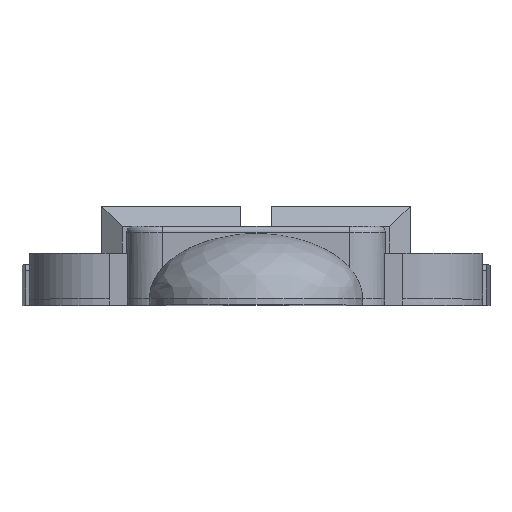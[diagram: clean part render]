
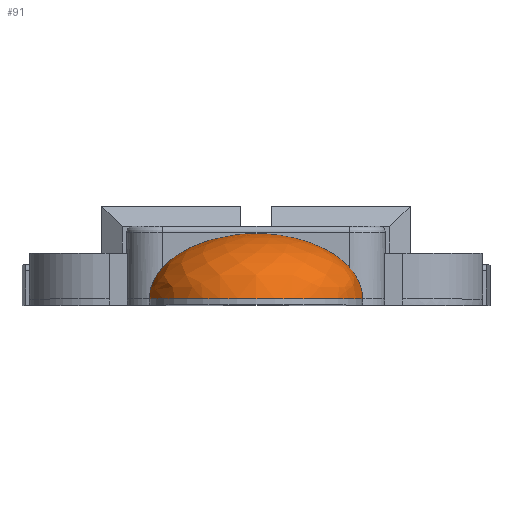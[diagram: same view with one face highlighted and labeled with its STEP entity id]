
A CAD part, top view. The second image highlights one B-rep face of the part: STEP entity #91.
In plain terms, the highlighted free-form (B-spline) face has degree [2, 2] with [9, 5] control points.
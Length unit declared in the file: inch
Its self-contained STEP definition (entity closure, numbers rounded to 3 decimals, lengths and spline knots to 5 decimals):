
#91=ADVANCED_FACE('',(#222),#2100,.T.);
#222=FACE_OUTER_BOUND('',#353,.T.);
#353=EDGE_LOOP('',(#819,#820,#821));
#819=ORIENTED_EDGE('',*,*,#1436,.T.);
#820=ORIENTED_EDGE('',*,*,#1427,.T.);
#821=ORIENTED_EDGE('',*,*,#1133,.F.);
#1133=EDGE_CURVE('',#1889,#1890,#1526,.T.);
#1427=EDGE_CURVE('',#2085,#1890,#1519,.T.);
#1436=EDGE_CURVE('',#1889,#2085,#1523,.T.);
#1519=(
BOUNDED_CURVE()
B_SPLINE_CURVE(2,(#4432,#4433,#4434),.UNSPECIFIED.,.F.,.F.)
B_SPLINE_CURVE_WITH_KNOTS((3,3),(-29.28308,0.),.UNSPECIFIED.)
CURVE()
GEOMETRIC_REPRESENTATION_ITEM()
RATIONAL_B_SPLINE_CURVE((1.,0.707,1.))
REPRESENTATION_ITEM('')
);
#1523=(
BOUNDED_CURVE()
B_SPLINE_CURVE(2,(#4453,#4454,#4455),.UNSPECIFIED.,.F.,.F.)
B_SPLINE_CURVE_WITH_KNOTS((3,3),(0.,29.28308),.UNSPECIFIED.)
CURVE()
GEOMETRIC_REPRESENTATION_ITEM()
RATIONAL_B_SPLINE_CURVE((1.,0.707,1.))
REPRESENTATION_ITEM('')
);
#1526=TRIMMED_CURVE($,#1546,(#3495),(#3496),.T.,.CARTESIAN.);
#1546=CIRCLE('',#2414,0.90026);
#1889=VERTEX_POINT('',#3255);
#1890=VERTEX_POINT('',#3256);
#2085=VERTEX_POINT('',#3451);
#2100=(
BOUNDED_SURFACE()
B_SPLINE_SURFACE(2,2,((#3109,#3110,#3111,#3112,#3113),(#3114,#3115,#3116,
#3117,#3118),(#3119,#3120,#3121,#3122,#3123),(#3124,#3125,#3126,#3127,#3128),
(#3129,#3130,#3131,#3132,#3133),(#3134,#3135,#3136,#3137,#3138),(#3139,
#3140,#3141,#3142,#3143),(#3144,#3145,#3146,#3147,#3148),(#3149,#3150,#3151,
#3152,#3153)),.UNSPECIFIED.,.T.,.F.,.F.)
B_SPLINE_SURFACE_WITH_KNOTS((3,2,2,2,3),(3,2,3),(0.,29.28308,58.56616,
87.84924,117.13232),(-29.28308,0.,29.28308),
 .UNSPECIFIED.)
GEOMETRIC_REPRESENTATION_ITEM()
RATIONAL_B_SPLINE_SURFACE(((1.,0.707,1.,0.707,1.),
(0.707,0.5,0.707,0.5,0.707),(1.,0.707,
1.,0.707,1.),(0.707,0.5,0.707,0.5,0.707),
(1.,0.707,1.,0.707,1.),(0.707,0.5,0.707,
0.5,0.707),(1.,0.707,1.,0.707,1.),(0.707,
0.5,0.707,0.5,0.707),(1.,0.707,1.,0.707,
1.)))
REPRESENTATION_ITEM('')
SURFACE()
);
#2414=AXIS2_PLACEMENT_3D($,#3494,#2541,#2542);
#2541=DIRECTION('',(0.,-1.,0.));
#2542=DIRECTION('',(1.,0.,0.));
#3109=CARTESIAN_POINT('',(-33.95146,30.74419,2.8149));
#3110=CARTESIAN_POINT('',(-34.85172,30.74419,2.8149));
#3111=CARTESIAN_POINT('',(-34.85172,30.19324,2.8149));
#3112=CARTESIAN_POINT('',(-34.85172,29.64229,2.8149));
#3113=CARTESIAN_POINT('',(-33.95146,29.64229,2.8149));
#3114=CARTESIAN_POINT('',(-33.95146,30.74419,2.8149));
#3115=CARTESIAN_POINT('',(-34.85172,30.74419,1.91464));
#3116=CARTESIAN_POINT('',(-34.85172,30.19324,1.91464));
#3117=CARTESIAN_POINT('',(-34.85172,29.64229,1.91464));
#3118=CARTESIAN_POINT('',(-33.95146,29.64229,2.8149));
#3119=CARTESIAN_POINT('',(-33.95146,30.74419,2.8149));
#3120=CARTESIAN_POINT('',(-33.95146,30.74419,1.91464));
#3121=CARTESIAN_POINT('',(-33.95146,30.19324,1.91464));
#3122=CARTESIAN_POINT('',(-33.95146,29.64229,1.91464));
#3123=CARTESIAN_POINT('',(-33.95146,29.64229,2.8149));
#3124=CARTESIAN_POINT('',(-33.95146,30.74419,2.8149));
#3125=CARTESIAN_POINT('',(-33.0512,30.74419,1.91464));
#3126=CARTESIAN_POINT('',(-33.0512,30.19324,1.91464));
#3127=CARTESIAN_POINT('',(-33.0512,29.64229,1.91464));
#3128=CARTESIAN_POINT('',(-33.95146,29.64229,2.8149));
#3129=CARTESIAN_POINT('',(-33.95146,30.74419,2.8149));
#3130=CARTESIAN_POINT('',(-33.0512,30.74419,2.8149));
#3131=CARTESIAN_POINT('',(-33.0512,30.19324,2.8149));
#3132=CARTESIAN_POINT('',(-33.0512,29.64229,2.8149));
#3133=CARTESIAN_POINT('',(-33.95146,29.64229,2.8149));
#3134=CARTESIAN_POINT('',(-33.95146,30.74419,2.8149));
#3135=CARTESIAN_POINT('',(-33.0512,30.74419,3.71516));
#3136=CARTESIAN_POINT('',(-33.0512,30.19324,3.71516));
#3137=CARTESIAN_POINT('',(-33.0512,29.64229,3.71516));
#3138=CARTESIAN_POINT('',(-33.95146,29.64229,2.8149));
#3139=CARTESIAN_POINT('',(-33.95146,30.74419,2.8149));
#3140=CARTESIAN_POINT('',(-33.95146,30.74419,3.71516));
#3141=CARTESIAN_POINT('',(-33.95146,30.19324,3.71516));
#3142=CARTESIAN_POINT('',(-33.95146,29.64229,3.71516));
#3143=CARTESIAN_POINT('',(-33.95146,29.64229,2.8149));
#3144=CARTESIAN_POINT('',(-33.95146,30.74419,2.8149));
#3145=CARTESIAN_POINT('',(-34.85172,30.74419,3.71516));
#3146=CARTESIAN_POINT('',(-34.85172,30.19324,3.71516));
#3147=CARTESIAN_POINT('',(-34.85172,29.64229,3.71516));
#3148=CARTESIAN_POINT('',(-33.95146,29.64229,2.8149));
#3149=CARTESIAN_POINT('',(-33.95146,30.74419,2.8149));
#3150=CARTESIAN_POINT('',(-34.85172,30.74419,2.8149));
#3151=CARTESIAN_POINT('',(-34.85172,30.19324,2.8149));
#3152=CARTESIAN_POINT('',(-34.85172,29.64229,2.8149));
#3153=CARTESIAN_POINT('',(-33.95146,29.64229,2.8149));
#3255=CARTESIAN_POINT('',(-33.0512,30.19324,2.8149));
#3256=CARTESIAN_POINT('',(-34.85172,30.19324,2.8149));
#3451=CARTESIAN_POINT('',(-33.95146,30.74419,2.8149));
#3494=CARTESIAN_POINT('',(-33.95146,30.19324,2.8149));
#3495=CARTESIAN_POINT('',(-33.0512,30.19324,2.8149));
#3496=CARTESIAN_POINT('',(-34.85172,30.19324,2.8149));
#4432=CARTESIAN_POINT('',(-33.95146,30.74419,2.8149));
#4433=CARTESIAN_POINT('',(-34.85172,30.74419,2.8149));
#4434=CARTESIAN_POINT('',(-34.85172,30.19324,2.8149));
#4453=CARTESIAN_POINT('',(-33.0512,30.19324,2.8149));
#4454=CARTESIAN_POINT('',(-33.0512,30.74419,2.8149));
#4455=CARTESIAN_POINT('',(-33.95146,30.74419,2.8149));
